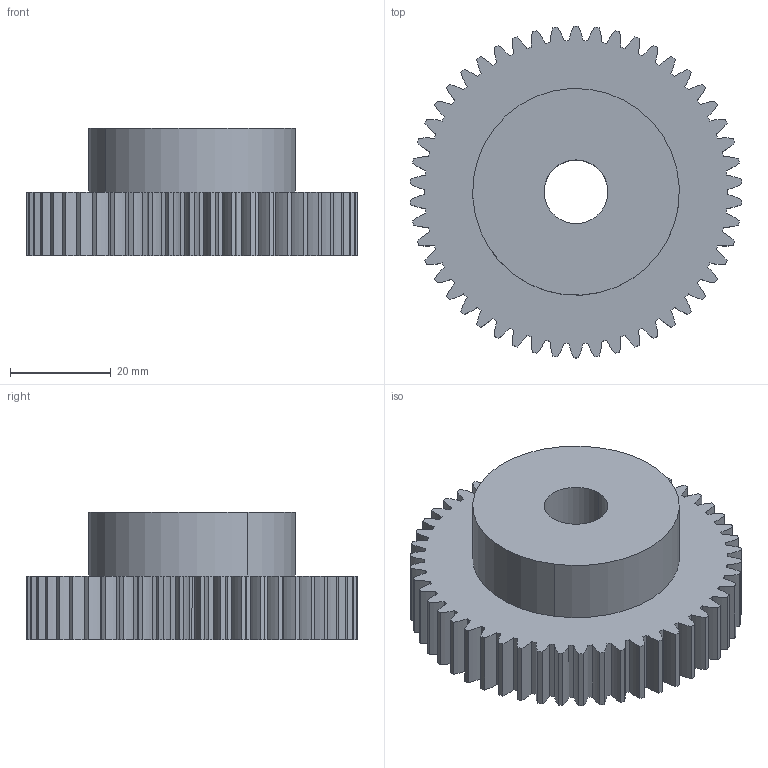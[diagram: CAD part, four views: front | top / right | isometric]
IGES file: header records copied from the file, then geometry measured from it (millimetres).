
Global section: file name: C:\Documents and Settings\Administrator\Desktop\Transfer Temp\gss-2050.igs; native system: AutoDesk Inventor R2.0 ; preprocessor: AutoDesk Inventor Iges Exporter R2.0; author: No Author specified; organization: No Organization specified; date: 20011229.164641; units: inch
Bounding box: 65.96 x 66.04 x 25.4 mm (x, y, z)
Surface area: 13762.2 mm2 (no closed solid volume)
Topology: 0 solids, 0 shells, 209 faces, 1236 edges, 1236 vertices
Faces by surface type: revolution 204, bspline 5
